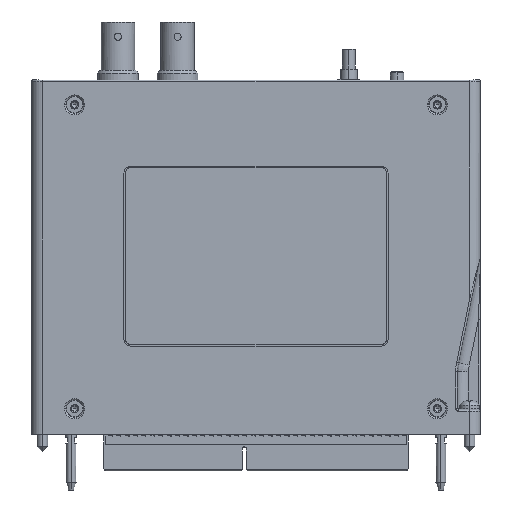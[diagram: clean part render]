
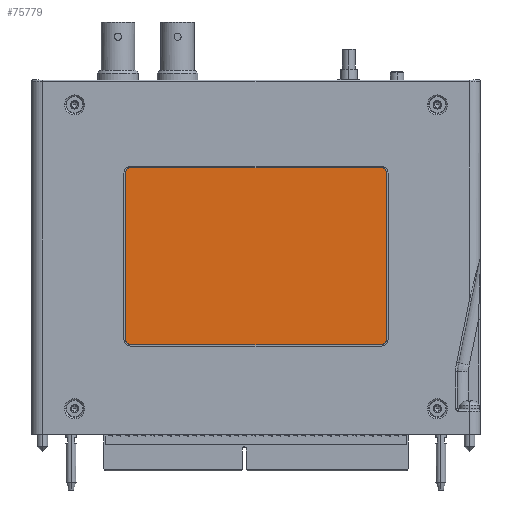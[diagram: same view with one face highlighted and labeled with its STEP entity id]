
A CAD part, left-side view. The second image highlights one B-rep face of the part: STEP entity #75779.
In plain terms, the highlighted planar face has unit normal (-1, 0, 0).
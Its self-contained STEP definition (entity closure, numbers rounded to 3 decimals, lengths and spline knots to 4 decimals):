
#24961=CARTESIAN_POINT('',(-0.16,1.413,2.943));
#24962=DIRECTION('',(-1.,0.,0.));
#24963=DIRECTION('',(0.,0.,1.));
#24964=AXIS2_PLACEMENT_3D('',#24961,#24962,#24963);
#24966=DIRECTION('',(0.,1.,0.));
#24967=VECTOR('',#24966,2.826);
#24968=CARTESIAN_POINT('',(-0.16,-1.413,3.005));
#24969=LINE('',#24968,#24967);
#24970=CARTESIAN_POINT('',(-0.16,-1.413,2.943));
#24971=DIRECTION('',(-1.,0.,0.));
#24972=DIRECTION('',(0.,-1.,0.));
#24973=AXIS2_PLACEMENT_3D('',#24970,#24971,#24972);
#24975=DIRECTION('',(0.,0.,1.));
#24976=VECTOR('',#24975,1.876);
#24977=CARTESIAN_POINT('',(-0.16,-1.475,1.067));
#24978=LINE('',#24977,#24976);
#24979=CARTESIAN_POINT('',(-0.16,-1.413,1.067));
#24980=DIRECTION('',(-1.,0.,0.));
#24981=DIRECTION('',(0.,0.,-1.));
#24982=AXIS2_PLACEMENT_3D('',#24979,#24980,#24981);
#24984=DIRECTION('',(0.,-1.,0.));
#24985=VECTOR('',#24984,2.826);
#24986=CARTESIAN_POINT('',(-0.16,1.413,1.005));
#24987=LINE('',#24986,#24985);
#24988=CARTESIAN_POINT('',(-0.16,1.413,1.067));
#24989=DIRECTION('',(-1.,0.,0.));
#24990=DIRECTION('',(0.,1.,0.));
#24991=AXIS2_PLACEMENT_3D('',#24988,#24989,#24990);
#24993=DIRECTION('',(0.,0.,-1.));
#24994=VECTOR('',#24993,1.876);
#24995=CARTESIAN_POINT('',(-0.16,1.475,2.943));
#24996=LINE('',#24995,#24994);
#38962=CARTESIAN_POINT('',(-0.16,1.413,3.005));
#38963=CARTESIAN_POINT('',(-0.16,1.475,2.943));
#38964=VERTEX_POINT('',#38962);
#38965=VERTEX_POINT('',#38963);
#38966=CARTESIAN_POINT('',(-0.16,-1.475,2.943));
#38967=CARTESIAN_POINT('',(-0.16,-1.413,3.005));
#38968=VERTEX_POINT('',#38966);
#38969=VERTEX_POINT('',#38967);
#38970=CARTESIAN_POINT('',(-0.16,-1.413,1.005));
#38971=CARTESIAN_POINT('',(-0.16,-1.475,1.067));
#38972=VERTEX_POINT('',#38970);
#38973=VERTEX_POINT('',#38971);
#38974=CARTESIAN_POINT('',(-0.16,1.475,1.067));
#38975=CARTESIAN_POINT('',(-0.16,1.413,1.005));
#38976=VERTEX_POINT('',#38974);
#38977=VERTEX_POINT('',#38975);
#75764=CARTESIAN_POINT('',(-0.16,-1.475,1.005));
#75765=DIRECTION('',(-1.,0.,0.));
#75766=DIRECTION('',(0.,0.,1.));
#75767=AXIS2_PLACEMENT_3D('',#75764,#75765,#75766);
#75768=PLANE('',#75767);
#75769=ORIENTED_EDGE('',*,*,#75731,.F.);
#75770=ORIENTED_EDGE('',*,*,#75745,.F.);
#75771=ORIENTED_EDGE('',*,*,#75758,.F.);
#75772=ORIENTED_EDGE('',*,*,#75660,.F.);
#75773=ORIENTED_EDGE('',*,*,#75675,.F.);
#75774=ORIENTED_EDGE('',*,*,#75689,.F.);
#75775=ORIENTED_EDGE('',*,*,#75703,.F.);
#75776=ORIENTED_EDGE('',*,*,#75717,.F.);
#75777=EDGE_LOOP('',(#75769,#75770,#75771,#75772,#75773,#75774,#75775,#75776));
#75778=FACE_OUTER_BOUND('',#75777,.F.);
#75779=ADVANCED_FACE('',(#75778),#75768,.T.);
#24965=CIRCLE('',#24964,0.062);
#24974=CIRCLE('',#24973,0.062);
#24983=CIRCLE('',#24982,0.062);
#24992=CIRCLE('',#24991,0.062);
#75660=EDGE_CURVE('',#38973,#38968,#24978,.T.);
#75675=EDGE_CURVE('',#38972,#38973,#24983,.T.);
#75689=EDGE_CURVE('',#38977,#38972,#24987,.T.);
#75703=EDGE_CURVE('',#38976,#38977,#24992,.T.);
#75717=EDGE_CURVE('',#38965,#38976,#24996,.T.);
#75731=EDGE_CURVE('',#38964,#38965,#24965,.T.);
#75745=EDGE_CURVE('',#38969,#38964,#24969,.T.);
#75758=EDGE_CURVE('',#38968,#38969,#24974,.T.);
